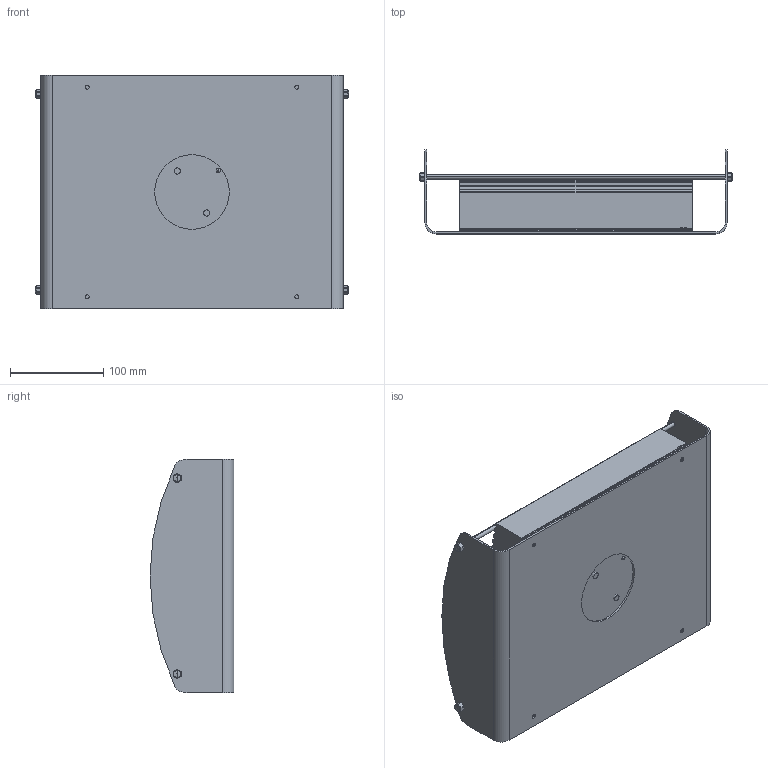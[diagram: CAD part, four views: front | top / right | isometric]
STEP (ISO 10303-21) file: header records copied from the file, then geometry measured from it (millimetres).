
FILE_DESCRIPTION((''),'2;1');
FILE_NAME('ASM0007_ASM','2026-06-03T16:04:17',('Manenti'),(''),'CREO PARAMETRIC BY PTC INC, 2025010','CREO PARAMETRIC BY PTC INC, 2025010','');
FILE_SCHEMA(('CONFIG_CONTROL_DESIGN'));
Length unit declared in the file: millimetre
Products named in the file (6): ASM0002_ASM_1_1_2_3_4_ASM; ART_ACCESSORIO_LAMIERA_250; ASTA_ACCESSORIO_LAMIERA; TAPPO_ACCESSORIO_LAMIERA; GLOW_ACCESSORIO_LAMIERA_1_ASM; ASM0007_ASM
Assembly tree (9 placements, depth 3):
  ASM0007_ASM
    ASM0002_ASM_1_1_2_3_4_ASM
    GLOW_ACCESSORIO_LAMIERA_1_ASM
      ART_ACCESSORIO_LAMIERA_250
      ASTA_ACCESSORIO_LAMIERA  x2
      TAPPO_ACCESSORIO_LAMIERA  x4
Bounding box: 336 x 90 x 250 mm (x, y, z)
Volume: 239263.7 mm3; surface area: 485070.2 mm2
Topology: 7 solids, 61 shells, 783 faces, 2026 edges, 1292 vertices
Faces by surface type: cylinder 289, bspline 184, plane 158, sphere 88, cone 34, torus 22, revolution 8
Entity records: 30329 total; most frequent: CARTESIAN_POINT 15094, ORIENTED_EDGE 3064, DIRECTION 3054, EDGE_CURVE 1700, AXIS2_PLACEMENT_3D 1250, VERTEX_POINT 1070, CIRCLE 706, EDGE_LOOP 693
